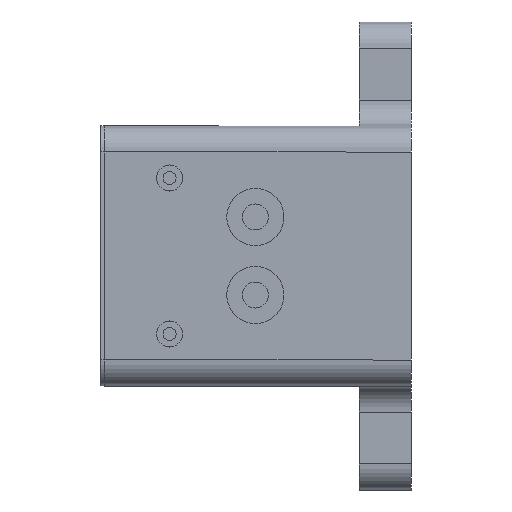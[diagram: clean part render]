
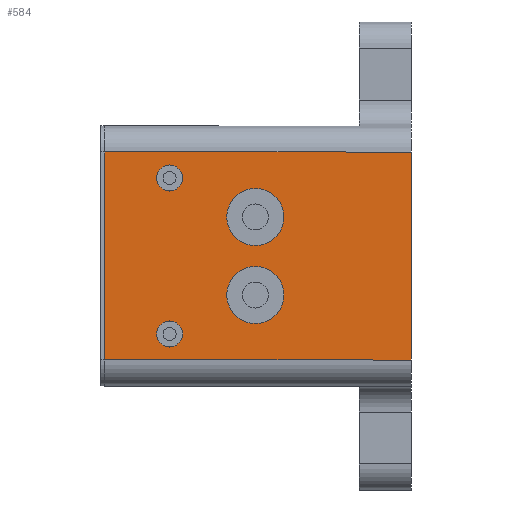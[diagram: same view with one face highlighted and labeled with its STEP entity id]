
A CAD part, left-side view. The second image highlights one B-rep face of the part: STEP entity #584.
In plain terms, the highlighted planar face has unit normal (-1, 0, 0).
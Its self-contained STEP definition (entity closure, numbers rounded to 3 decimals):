
#18 = DIRECTION ( 'NONE',  ( 0., 0., -1. ) ) ;
#102 = FACE_BOUND ( 'NONE', #2558, .T. ) ;
#141 = EDGE_CURVE ( 'NONE', #290, #3392, #613, .T. ) ;
#193 = CARTESIAN_POINT ( 'NONE',  ( -17.5, 5., -1.5 ) ) ;
#290 = VERTEX_POINT ( 'NONE', #1918 ) ;
#309 = DIRECTION ( 'NONE',  ( 0., 1., 0. ) ) ;
#322 = EDGE_CURVE ( 'NONE', #1656, #893, #2507, .T. ) ;
#382 = CARTESIAN_POINT ( 'NONE',  ( -17.5, 8.3, 3. ) ) ;
#397 = CIRCLE ( 'NONE', #1462, 1.1 ) ;
#402 = VECTOR ( 'NONE', #18, 1000. ) ;
#443 = AXIS2_PLACEMENT_3D ( 'NONE', #1546, #1753, #1770 ) ;
#509 = AXIS2_PLACEMENT_3D ( 'NONE', #2829, #1260, #1551 ) ;
#511 = LINE ( 'NONE', #528, #402 ) ;
#526 = AXIS2_PLACEMENT_3D ( 'NONE', #2217, #1527, #2784 ) ;
#528 = CARTESIAN_POINT ( 'NONE',  ( -17.5, -1., 4. ) ) ;
#578 = ORIENTED_EDGE ( 'NONE', *, *, #141, .F. ) ;
#579 = CARTESIAN_POINT ( 'NONE',  ( -17.5, 8.3, 3. ) ) ;
#584 = ADVANCED_FACE ( 'NONE', ( #3411, #2608, #2203, #102, #3075 ), #594, .F. ) ;
#594 = PLANE ( 'NONE',  #526 ) ;
#612 = CARTESIAN_POINT ( 'NONE',  ( -17.5, 6.1, -1.5 ) ) ;
#613 = CIRCLE ( 'NONE', #2592, 0.5 ) ;
#616 = ORIENTED_EDGE ( 'NONE', *, *, #1416, .F. ) ;
#651 = DIRECTION ( 'NONE',  ( 0., -1., 0. ) ) ;
#668 = CARTESIAN_POINT ( 'NONE',  ( -17.5, 3.9, -1.5 ) ) ;
#679 = CIRCLE ( 'NONE', #509, 1.1 ) ;
#689 = VERTEX_POINT ( 'NONE', #1682 ) ;
#750 = DIRECTION ( 'NONE',  ( 0., 0., 1. ) ) ;
#842 = AXIS2_PLACEMENT_3D ( 'NONE', #382, #1617, #2685 ) ;
#846 = CARTESIAN_POINT ( 'NONE',  ( -17.5, 1., -4. ) ) ;
#856 = ORIENTED_EDGE ( 'NONE', *, *, #1523, .F. ) ;
#883 = VERTEX_POINT ( 'NONE', #2142 ) ;
#893 = VERTEX_POINT ( 'NONE', #1855 ) ;
#902 = DIRECTION ( 'NONE',  ( 0., 1., 0. ) ) ;
#948 = ORIENTED_EDGE ( 'NONE', *, *, #2666, .F. ) ;
#949 = EDGE_CURVE ( 'NONE', #2617, #1684, #2190, .T. ) ;
#1088 = ORIENTED_EDGE ( 'NONE', *, *, #949, .F. ) ;
#1139 = VERTEX_POINT ( 'NONE', #3066 ) ;
#1178 = AXIS2_PLACEMENT_3D ( 'NONE', #1883, #2736, #2971 ) ;
#1186 = CARTESIAN_POINT ( 'NONE',  ( -17.5, 1., 4. ) ) ;
#1209 = EDGE_CURVE ( 'NONE', #2349, #3363, #2924, .T. ) ;
#1260 = DIRECTION ( 'NONE',  ( -1., 0., 0. ) ) ;
#1274 = ORIENTED_EDGE ( 'NONE', *, *, #322, .F. ) ;
#1378 = CIRCLE ( 'NONE', #2510, 0.5 ) ;
#1416 = EDGE_CURVE ( 'NONE', #1684, #2617, #679, .T. ) ;
#1451 = ORIENTED_EDGE ( 'NONE', *, *, #2566, .F. ) ;
#1462 = AXIS2_PLACEMENT_3D ( 'NONE', #193, #2556, #3379 ) ;
#1523 = EDGE_CURVE ( 'NONE', #1139, #1656, #511, .T. ) ;
#1527 = DIRECTION ( 'NONE',  ( 1., 0., 0. ) ) ;
#1546 = CARTESIAN_POINT ( 'NONE',  ( -17.5, 8.3, -3. ) ) ;
#1551 = DIRECTION ( 'NONE',  ( 0., 1., 0. ) ) ;
#1590 = ORIENTED_EDGE ( 'NONE', *, *, #1925, .F. ) ;
#1594 = CARTESIAN_POINT ( 'NONE',  ( -17.5, 10.8, -4. ) ) ;
#1600 = DIRECTION ( 'NONE',  ( 0., 1., 0. ) ) ;
#1617 = DIRECTION ( 'NONE',  ( -1., 0., 0. ) ) ;
#1656 = VERTEX_POINT ( 'NONE', #2156 ) ;
#1682 = CARTESIAN_POINT ( 'NONE',  ( -17.5, 8.8, 3. ) ) ;
#1683 = VECTOR ( 'NONE', #750, 1000. ) ;
#1684 = VERTEX_POINT ( 'NONE', #3329 ) ;
#1688 = CARTESIAN_POINT ( 'NONE',  ( -17.5, 7.8, -3. ) ) ;
#1712 = EDGE_LOOP ( 'NONE', ( #1088, #616 ) ) ;
#1717 = ORIENTED_EDGE ( 'NONE', *, *, #3089, .F. ) ;
#1753 = DIRECTION ( 'NONE',  ( -1., 0., 0. ) ) ;
#1766 = CARTESIAN_POINT ( 'NONE',  ( -17.5, 7.8, 3. ) ) ;
#1770 = DIRECTION ( 'NONE',  ( 0., 1., 0. ) ) ;
#1832 = CARTESIAN_POINT ( 'NONE',  ( -17.5, 8.3, -3. ) ) ;
#1855 = CARTESIAN_POINT ( 'NONE',  ( -17.5, 10.8, -4. ) ) ;
#1883 = CARTESIAN_POINT ( 'NONE',  ( -17.5, 5., 1.5 ) ) ;
#1918 = CARTESIAN_POINT ( 'NONE',  ( -17.5, 8.8, -3. ) ) ;
#1925 = EDGE_CURVE ( 'NONE', #3392, #290, #2014, .T. ) ;
#2014 = CIRCLE ( 'NONE', #443, 0.5 ) ;
#2113 = EDGE_LOOP ( 'NONE', ( #2480, #1717 ) ) ;
#2142 = CARTESIAN_POINT ( 'NONE',  ( -17.5, 10.8, 4. ) ) ;
#2156 = CARTESIAN_POINT ( 'NONE',  ( -17.5, -1., -4. ) ) ;
#2190 = CIRCLE ( 'NONE', #1178, 1.1 ) ;
#2203 = FACE_BOUND ( 'NONE', #2113, .T. ) ;
#2213 = ORIENTED_EDGE ( 'NONE', *, *, #3312, .F. ) ;
#2217 = CARTESIAN_POINT ( 'NONE',  ( -17.5, 1., 5. ) ) ;
#2223 = DIRECTION ( 'NONE',  ( 0., 1., 0. ) ) ;
#2303 = EDGE_LOOP ( 'NONE', ( #1274, #856, #2213, #948 ) ) ;
#2349 = VERTEX_POINT ( 'NONE', #612 ) ;
#2370 = CIRCLE ( 'NONE', #842, 0.5 ) ;
#2371 = EDGE_CURVE ( 'NONE', #689, #2496, #1378, .T. ) ;
#2480 = ORIENTED_EDGE ( 'NONE', *, *, #2371, .F. ) ;
#2496 = VERTEX_POINT ( 'NONE', #1766 ) ;
#2507 = LINE ( 'NONE', #846, #3493 ) ;
#2510 = AXIS2_PLACEMENT_3D ( 'NONE', #579, #3306, #309 ) ;
#2556 = DIRECTION ( 'NONE',  ( -1., 0., 0. ) ) ;
#2558 = EDGE_LOOP ( 'NONE', ( #2816, #1451 ) ) ;
#2566 = EDGE_CURVE ( 'NONE', #3363, #2349, #397, .T. ) ;
#2592 = AXIS2_PLACEMENT_3D ( 'NONE', #1832, #2913, #1600 ) ;
#2608 = FACE_BOUND ( 'NONE', #3255, .T. ) ;
#2617 = VERTEX_POINT ( 'NONE', #3185 ) ;
#2627 = LINE ( 'NONE', #1594, #1683 ) ;
#2666 = EDGE_CURVE ( 'NONE', #893, #883, #2627, .T. ) ;
#2685 = DIRECTION ( 'NONE',  ( 0., 1., 0. ) ) ;
#2736 = DIRECTION ( 'NONE',  ( -1., 0., 0. ) ) ;
#2754 = VECTOR ( 'NONE', #651, 1000. ) ;
#2755 = AXIS2_PLACEMENT_3D ( 'NONE', #3049, #3354, #902 ) ;
#2784 = DIRECTION ( 'NONE',  ( 0., 1., 0. ) ) ;
#2787 = LINE ( 'NONE', #1186, #2754 ) ;
#2816 = ORIENTED_EDGE ( 'NONE', *, *, #1209, .F. ) ;
#2829 = CARTESIAN_POINT ( 'NONE',  ( -17.5, 5., 1.5 ) ) ;
#2913 = DIRECTION ( 'NONE',  ( -1., 0., 0. ) ) ;
#2924 = CIRCLE ( 'NONE', #2755, 1.1 ) ;
#2971 = DIRECTION ( 'NONE',  ( 0., 1., 0. ) ) ;
#3049 = CARTESIAN_POINT ( 'NONE',  ( -17.5, 5., -1.5 ) ) ;
#3066 = CARTESIAN_POINT ( 'NONE',  ( -17.5, -1., 4. ) ) ;
#3075 = FACE_OUTER_BOUND ( 'NONE', #2303, .T. ) ;
#3089 = EDGE_CURVE ( 'NONE', #2496, #689, #2370, .T. ) ;
#3185 = CARTESIAN_POINT ( 'NONE',  ( -17.5, 6.1, 1.5 ) ) ;
#3255 = EDGE_LOOP ( 'NONE', ( #578, #1590 ) ) ;
#3306 = DIRECTION ( 'NONE',  ( -1., 0., 0. ) ) ;
#3312 = EDGE_CURVE ( 'NONE', #883, #1139, #2787, .T. ) ;
#3329 = CARTESIAN_POINT ( 'NONE',  ( -17.5, 3.9, 1.5 ) ) ;
#3354 = DIRECTION ( 'NONE',  ( -1., 0., 0. ) ) ;
#3363 = VERTEX_POINT ( 'NONE', #668 ) ;
#3379 = DIRECTION ( 'NONE',  ( 0., 1., 0. ) ) ;
#3392 = VERTEX_POINT ( 'NONE', #1688 ) ;
#3411 = FACE_BOUND ( 'NONE', #1712, .T. ) ;
#3493 = VECTOR ( 'NONE', #2223, 1000. ) ;
